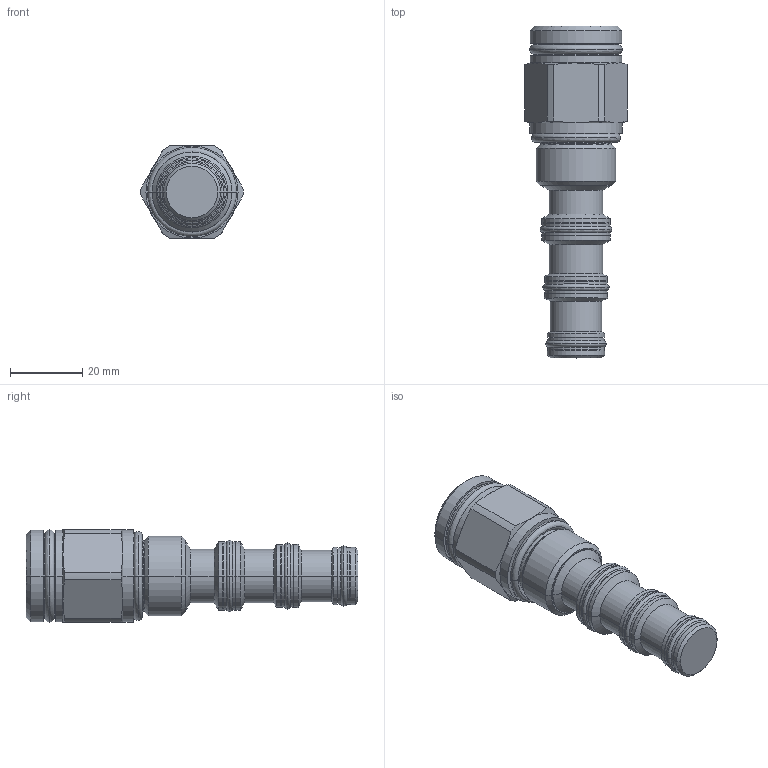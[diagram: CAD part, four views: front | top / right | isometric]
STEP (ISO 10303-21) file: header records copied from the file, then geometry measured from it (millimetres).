
FILE_DESCRIPTION((''),'2;1');
FILE_NAME('5261206_SW0001','2009-02-09T',('jcs'),(''),'PRO/ENGINEER BY PARAMETRIC TECHNOLOGY CORPORATION, 2008010','PRO/ENGINEER BY PARAMETRIC TECHNOLOGY CORPORATION, 2008010','');
FILE_SCHEMA(('CONFIG_CONTROL_DESIGN'));
Length unit declared in the file: inch
Products named in the file (1): 5261206_SW0001
Bounding box: 28.19 x 91.59 x 25.53 mm (x, y, z)
Volume: 30462.7 mm3; surface area: 10410.4 mm2
Topology: 6 solids, 6 shells, 176 faces, 364 edges, 212 vertices
Faces by surface type: cylinder 54, revolution 40, cone 32, plane 30, torus 20
Entity records: 5432 total; most frequent: CARTESIAN_POINT 1598, DIRECTION 838, ORIENTED_EDGE 728, EDGE_CURVE 364, AXIS2_PLACEMENT_3D 356, CIRCLE 220, VERTEX_POINT 212, EDGE_LOOP 198
